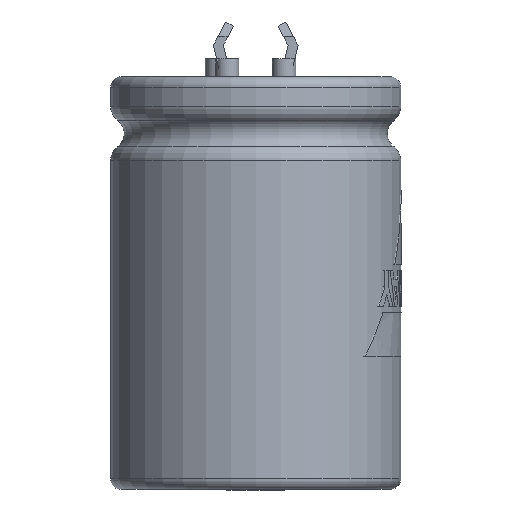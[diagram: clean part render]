
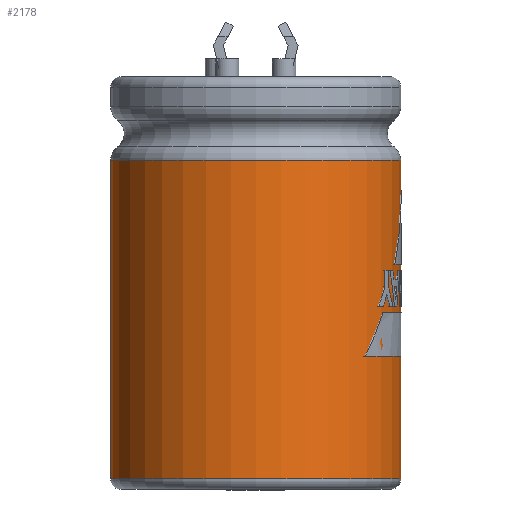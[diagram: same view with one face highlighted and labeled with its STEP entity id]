
A CAD part, left-side view. The second image highlights one B-rep face of the part: STEP entity #2178.
In plain terms, the highlighted cylindrical face has radius 13 mm (diameter 26 mm), a full revolution.
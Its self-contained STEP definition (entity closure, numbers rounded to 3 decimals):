
#2110 = TOROIDAL_SURFACE('',#2111,11.5,1.5);
#2111 = AXIS2_PLACEMENT_3D('',#2112,#2113,#2114);
#2112 = CARTESIAN_POINT('',(0.,0.,-6.55));
#2113 = DIRECTION('',(0.,0.,1.));
#2114 = DIRECTION('',(1.,0.,0.));
#2126 = EDGE_CURVE('',#2127,#2127,#2129,.T.);
#2127 = VERTEX_POINT('',#2128);
#2128 = CARTESIAN_POINT('',(13.,0.,-6.55));
#2129 = SURFACE_CURVE('',#2130,(#2135,#2142),.PCURVE_S1.);
#2130 = CIRCLE('',#2131,13.);
#2131 = AXIS2_PLACEMENT_3D('',#2132,#2133,#2134);
#2132 = CARTESIAN_POINT('',(0.,0.,-6.55));
#2133 = DIRECTION('',(0.,0.,1.));
#2134 = DIRECTION('',(1.,0.,0.));
#2135 = PCURVE('',#2110,#2136);
#2136 = DEFINITIONAL_REPRESENTATION('',(#2137),#2141);
#2137 = LINE('',#2138,#2139);
#2138 = CARTESIAN_POINT('',(0.,6.283));
#2139 = VECTOR('',#2140,1.);
#2140 = DIRECTION('',(1.,0.));
#2141 = ( GEOMETRIC_REPRESENTATION_CONTEXT(2) 
PARAMETRIC_REPRESENTATION_CONTEXT() REPRESENTATION_CONTEXT('2D SPACE',''
  ) );
#2142 = PCURVE('',#2143,#2148);
#2143 = CYLINDRICAL_SURFACE('',#2144,13.);
#2144 = AXIS2_PLACEMENT_3D('',#2145,#2146,#2147);
#2145 = CARTESIAN_POINT('',(0.,0.,-35.1));
#2146 = DIRECTION('',(0.,0.,1.));
#2147 = DIRECTION('',(1.,0.,0.));
#2148 = DEFINITIONAL_REPRESENTATION('',(#2149),#2153);
#2149 = LINE('',#2150,#2151);
#2150 = CARTESIAN_POINT('',(0.,28.55));
#2151 = VECTOR('',#2152,1.);
#2152 = DIRECTION('',(1.,0.));
#2153 = ( GEOMETRIC_REPRESENTATION_CONTEXT(2) 
PARAMETRIC_REPRESENTATION_CONTEXT() REPRESENTATION_CONTEXT('2D SPACE',''
  ) );
#2178 = ADVANCED_FACE('',(#2179),#2143,.T.);
#2179 = FACE_BOUND('',#2180,.T.);
#2180 = EDGE_LOOP('',(#2181,#2210,#2231,#2232));
#2181 = ORIENTED_EDGE('',*,*,#2182,.T.);
#2182 = EDGE_CURVE('',#2183,#2183,#2185,.T.);
#2183 = VERTEX_POINT('',#2184);
#2184 = CARTESIAN_POINT('',(13.,0.,-35.1));
#2185 = SURFACE_CURVE('',#2186,(#2191,#2198),.PCURVE_S1.);
#2186 = CIRCLE('',#2187,13.);
#2187 = AXIS2_PLACEMENT_3D('',#2188,#2189,#2190);
#2188 = CARTESIAN_POINT('',(0.,0.,-35.1));
#2189 = DIRECTION('',(0.,0.,1.));
#2190 = DIRECTION('',(1.,0.,0.));
#2191 = PCURVE('',#2143,#2192);
#2192 = DEFINITIONAL_REPRESENTATION('',(#2193),#2197);
#2193 = LINE('',#2194,#2195);
#2194 = CARTESIAN_POINT('',(0.,0.));
#2195 = VECTOR('',#2196,1.);
#2196 = DIRECTION('',(1.,0.));
#2197 = ( GEOMETRIC_REPRESENTATION_CONTEXT(2) 
PARAMETRIC_REPRESENTATION_CONTEXT() REPRESENTATION_CONTEXT('2D SPACE',''
  ) );
#2198 = PCURVE('',#2199,#2204);
#2199 = TOROIDAL_SURFACE('',#2200,12.05,0.95);
#2200 = AXIS2_PLACEMENT_3D('',#2201,#2202,#2203);
#2201 = CARTESIAN_POINT('',(0.,0.,-35.1));
#2202 = DIRECTION('',(0.,0.,1.));
#2203 = DIRECTION('',(1.,0.,0.));
#2204 = DEFINITIONAL_REPRESENTATION('',(#2205),#2209);
#2205 = LINE('',#2206,#2207);
#2206 = CARTESIAN_POINT('',(0.,6.283));
#2207 = VECTOR('',#2208,1.);
#2208 = DIRECTION('',(1.,0.));
#2209 = ( GEOMETRIC_REPRESENTATION_CONTEXT(2) 
PARAMETRIC_REPRESENTATION_CONTEXT() REPRESENTATION_CONTEXT('2D SPACE',''
  ) );
#2210 = ORIENTED_EDGE('',*,*,#2211,.T.);
#2211 = EDGE_CURVE('',#2183,#2127,#2212,.T.);
#2212 = SEAM_CURVE('',#2213,(#2217,#2224),.PCURVE_S1.);
#2213 = LINE('',#2214,#2215);
#2214 = CARTESIAN_POINT('',(13.,0.,-35.1));
#2215 = VECTOR('',#2216,1.);
#2216 = DIRECTION('',(0.,0.,1.));
#2217 = PCURVE('',#2143,#2218);
#2218 = DEFINITIONAL_REPRESENTATION('',(#2219),#2223);
#2219 = LINE('',#2220,#2221);
#2220 = CARTESIAN_POINT('',(0.,0.));
#2221 = VECTOR('',#2222,1.);
#2222 = DIRECTION('',(0.,1.));
#2223 = ( GEOMETRIC_REPRESENTATION_CONTEXT(2) 
PARAMETRIC_REPRESENTATION_CONTEXT() REPRESENTATION_CONTEXT('2D SPACE',''
  ) );
#2224 = PCURVE('',#2143,#2225);
#2225 = DEFINITIONAL_REPRESENTATION('',(#2226),#2230);
#2226 = LINE('',#2227,#2228);
#2227 = CARTESIAN_POINT('',(6.283,0.));
#2228 = VECTOR('',#2229,1.);
#2229 = DIRECTION('',(0.,1.));
#2230 = ( GEOMETRIC_REPRESENTATION_CONTEXT(2) 
PARAMETRIC_REPRESENTATION_CONTEXT() REPRESENTATION_CONTEXT('2D SPACE',''
  ) );
#2231 = ORIENTED_EDGE('',*,*,#2126,.F.);
#2232 = ORIENTED_EDGE('',*,*,#2211,.F.);
